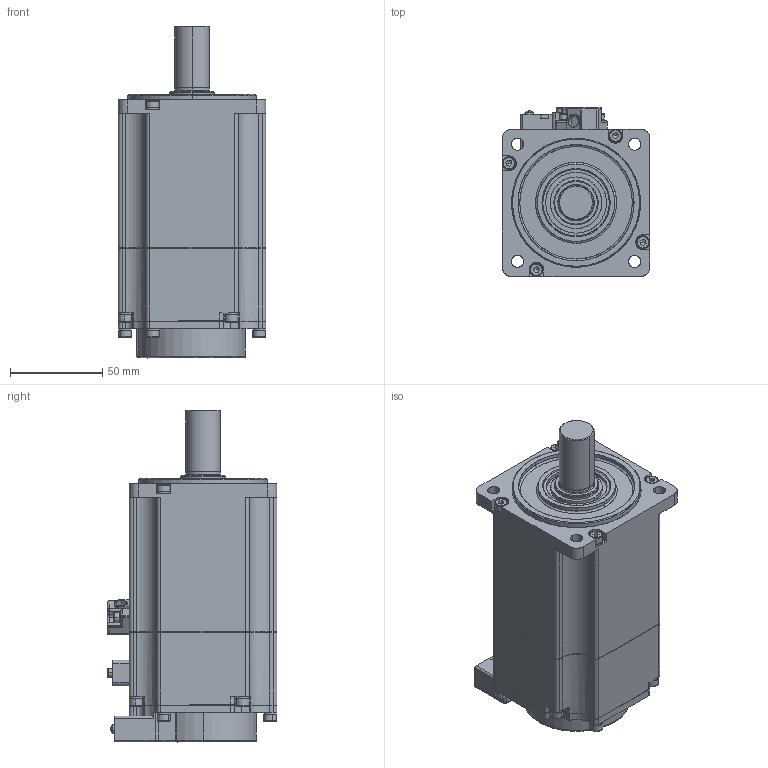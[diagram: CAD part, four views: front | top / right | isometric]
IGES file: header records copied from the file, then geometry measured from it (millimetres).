
Start section: SolidWorks IGES file using analytic representation for surfaces
Bounding box: 80.07 x 92.02 x 180.2 mm (x, y, z)
Surface area: 121781.7 mm2 (no closed solid volume)
Topology: 0 solids, 0 shells, 1264 faces, 17050 edges, 16956 vertices
Faces by surface type: revolution 673, bspline 591
